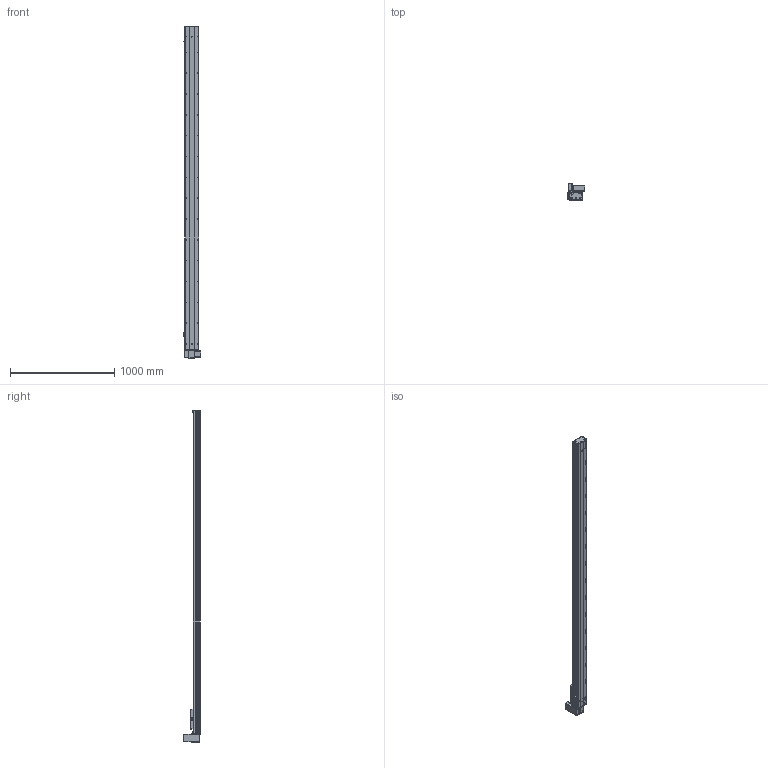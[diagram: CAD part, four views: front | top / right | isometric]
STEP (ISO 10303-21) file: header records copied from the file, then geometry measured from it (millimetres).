
FILE_DESCRIPTION (( 'STEP AP203' ), '1' );
FILE_NAME ('Y135CB-D90-S2800-UR-P400W.STEP', '2020-02-18T06:45:30', ( '微软用户' ), ( '微软中国' ), 'SwSTEP 2.0', 'SolidWorks 2017', '' );
FILE_SCHEMA (( 'CONFIG_CONTROL_DESIGN' ));
Length unit declared in the file: millimetre
Products named in the file (18): 00B-俋欶BM--; C-詩湍揤踡え-陔; Y135CB-耜裔; Y135CB-D90-S2800-UR-P400W; 135CB--詩湍-CE; 135CB---遴掛极.-; Y100-135俋离換覜ん--; 35CB---喘謫眊楊擘啣; Y135C-陔俋离換覜結え-; 0B-埴倛裔啣; 5C--俋欶; 0B-源倛裔啣; C-雄赽釱--; 0B-萇儂楊擘啣; Y10B--々湍喘謫眊--666; san松下电机400不带刹车----; Y10B-耜蚾蟀諉啣----; 5CB --掛极耜裔啣-
Assembly tree (21 placements, depth 2):
  Y135CB-D90-S2800-UR-P400W
    Y135CB-耜裔
    135CB---遴掛极.-
    35CB---喘謫眊楊擘啣
    0B-埴倛裔啣
    0B-源倛裔啣
    0B-萇儂楊擘啣
    san松下电机400不带刹车----
    5CB --掛极耜裔啣-  x2
    C-詩湍揤踡え-陔  x2
    135CB--詩湍-CE
    Y100-135俋离換覜ん--  x3
    Y135C-陔俋离換覜結え-
    5C--俋欶
    C-雄赽釱--
    Y10B--々湍喘謫眊--666
    Y10B-耜蚾蟀諉啣----
    00B-俋欶BM--
Bounding box: 167.5 x 158.7 x 3188 mm (x, y, z)
Volume: 9060892.9 mm3; surface area: 3592760 mm2
Topology: 21 solids, 21 shells, 981 faces, 2689 edges, 1782 vertices
Faces by surface type: cylinder 509, plane 456, cone 16
Entity records: 31167 total; most frequent: CARTESIAN_POINT 5208, DIRECTION 5181, ORIENTED_EDGE 4854, EDGE_CURVE 2427, AXIS2_PLACEMENT_3D 1903, VERTEX_POINT 1610, LINE 1375, VECTOR 1375
